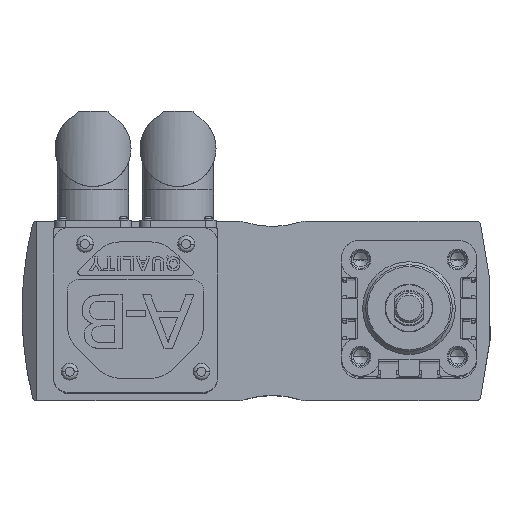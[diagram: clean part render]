
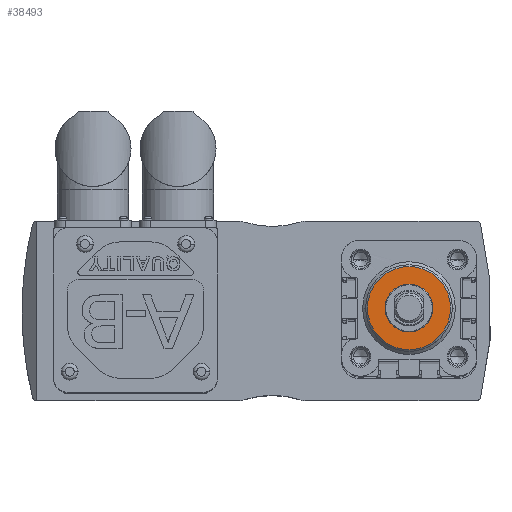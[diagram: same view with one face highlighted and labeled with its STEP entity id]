
A CAD part, top view. The second image highlights one B-rep face of the part: STEP entity #38493.
In plain terms, the highlighted planar face has unit normal (0, 0, 1).
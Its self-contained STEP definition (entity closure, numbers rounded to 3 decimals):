
#78 = VERTEX_POINT ( 'NONE', #28105 ) ;
#1606 = DIRECTION ( 'NONE',  ( -1., 0., 0. ) ) ;
#1932 = CIRCLE ( 'NONE', #8639, 13.9 ) ;
#4984 = VERTEX_POINT ( 'NONE', #22562 ) ;
#5377 = AXIS2_PLACEMENT_3D ( 'NONE', #43540, #22521, #1606 ) ;
#5690 = EDGE_LOOP ( 'NONE', ( #9268, #17083 ) ) ;
#6299 = PLANE ( 'NONE',  #11223 ) ;
#7244 = CIRCLE ( 'NONE', #5377, 13.9 ) ;
#8334 = DIRECTION ( 'NONE',  ( 0., 0., -1. ) ) ;
#8639 = AXIS2_PLACEMENT_3D ( 'NONE', #40787, #19792, #44327 ) ;
#9268 = ORIENTED_EDGE ( 'NONE', *, *, #14120, .T. ) ;
#10458 = VERTEX_POINT ( 'NONE', #19399 ) ;
#11223 = AXIS2_PLACEMENT_3D ( 'NONE', #37765, #20318, #44849 ) ;
#13564 = ORIENTED_EDGE ( 'NONE', *, *, #23750, .T. ) ;
#14120 = EDGE_CURVE ( 'NONE', #14775, #78, #39977, .T. ) ;
#14775 = VERTEX_POINT ( 'NONE', #43465 ) ;
#14778 = AXIS2_PLACEMENT_3D ( 'NONE', #18341, #42902, #21871 ) ;
#17083 = ORIENTED_EDGE ( 'NONE', *, *, #39288, .T. ) ;
#18341 = CARTESIAN_POINT ( 'NONE',  ( 0., 0., 17.5 ) ) ;
#19399 = CARTESIAN_POINT ( 'NONE',  ( 13.9, 0., 17.5 ) ) ;
#19792 = DIRECTION ( 'NONE',  ( 0., 0., 1. ) ) ;
#20318 = DIRECTION ( 'NONE',  ( 0., 0., 1. ) ) ;
#21871 = DIRECTION ( 'NONE',  ( -1., 0., 0. ) ) ;
#22521 = DIRECTION ( 'NONE',  ( 0., 0., 1. ) ) ;
#22562 = CARTESIAN_POINT ( 'NONE',  ( -13.9, 0., 17.5 ) ) ;
#22702 = FACE_OUTER_BOUND ( 'NONE', #31314, .T. ) ;
#23750 = EDGE_CURVE ( 'NONE', #4984, #10458, #7244, .T. ) ;
#25457 = EDGE_CURVE ( 'NONE', #10458, #4984, #1932, .T. ) ;
#28105 = CARTESIAN_POINT ( 'NONE',  ( 8., 0., 17.5 ) ) ;
#29268 = CARTESIAN_POINT ( 'NONE',  ( 0., 0., 17.5 ) ) ;
#31314 = EDGE_LOOP ( 'NONE', ( #13564, #36609 ) ) ;
#32764 = DIRECTION ( 'NONE',  ( -1., 0., 0. ) ) ;
#36328 = CIRCLE ( 'NONE', #41525, 8. ) ;
#36609 = ORIENTED_EDGE ( 'NONE', *, *, #25457, .T. ) ;
#37765 = CARTESIAN_POINT ( 'NONE',  ( 0., 6.95, 17.5 ) ) ;
#38493 = ADVANCED_FACE ( 'NONE', ( #41384, #22702 ), #6299, .T. ) ;
#39288 = EDGE_CURVE ( 'NONE', #78, #14775, #36328, .T. ) ;
#39977 = CIRCLE ( 'NONE', #14778, 8. ) ;
#40787 = CARTESIAN_POINT ( 'NONE',  ( 0., 0., 17.5 ) ) ;
#41384 = FACE_BOUND ( 'NONE', #5690, .T. ) ;
#41525 = AXIS2_PLACEMENT_3D ( 'NONE', #29268, #8334, #32764 ) ;
#42902 = DIRECTION ( 'NONE',  ( 0., 0., -1. ) ) ;
#43465 = CARTESIAN_POINT ( 'NONE',  ( -8., 0., 17.5 ) ) ;
#43540 = CARTESIAN_POINT ( 'NONE',  ( 0., 0., 17.5 ) ) ;
#44327 = DIRECTION ( 'NONE',  ( -1., 0., 0. ) ) ;
#44849 = DIRECTION ( 'NONE',  ( 1., 0., 0. ) ) ;
